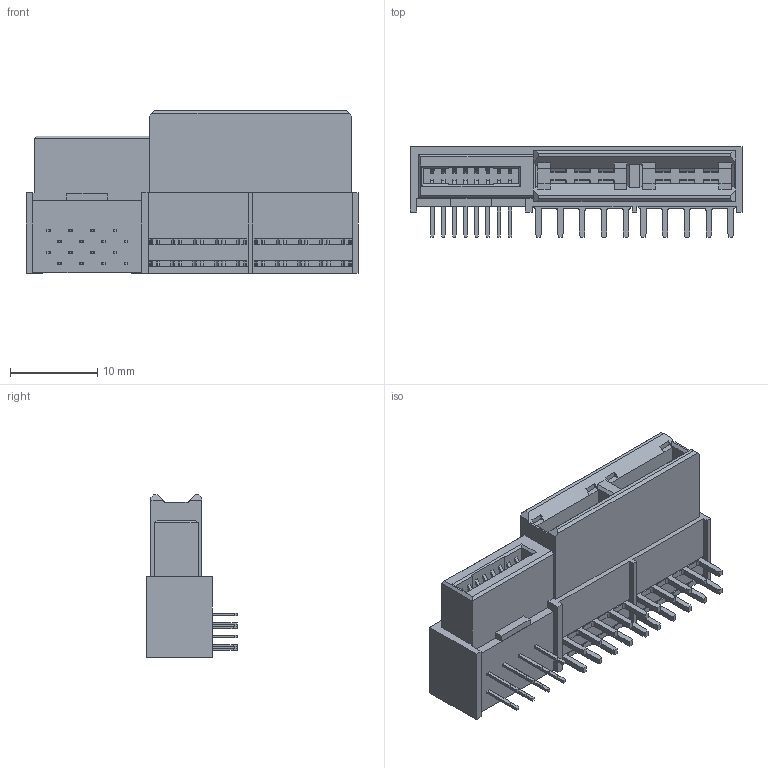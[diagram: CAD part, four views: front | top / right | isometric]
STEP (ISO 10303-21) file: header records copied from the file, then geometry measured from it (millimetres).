
FILE_DESCRIPTION (( 'STEP AP214' ), '1' );
FILE_NAME ('9392-4S16P04N12CB30DA.STEP', '2023-10-14T01:17:38', ( '' ), ( '' ), 'SwSTEP 2.0', 'SolidWorks 2011', '' );
FILE_SCHEMA (( 'AUTOMOTIVE_DESIGN' ));
Length unit declared in the file: millimetre
Products named in the file (1): 9392-4S16P04N12CB30DA
Bounding box: 38.02 x 10.4 x 18.6 mm (x, y, z)
Volume: 3260.5 mm3; surface area: 3154.5 mm2
Topology: 1 solids, 1 shells, 1109 faces, 3024 edges, 1966 vertices
Faces by surface type: plane 798, cylinder 238, bspline 48, cone 25
Entity records: 35791 total; most frequent: CARTESIAN_POINT 8372, ORIENTED_EDGE 6048, DIRECTION 5089, EDGE_CURVE 3024, VECTOR 2267, LINE 2267, VERTEX_POINT 1966, AXIS2_PLACEMENT_3D 1411
